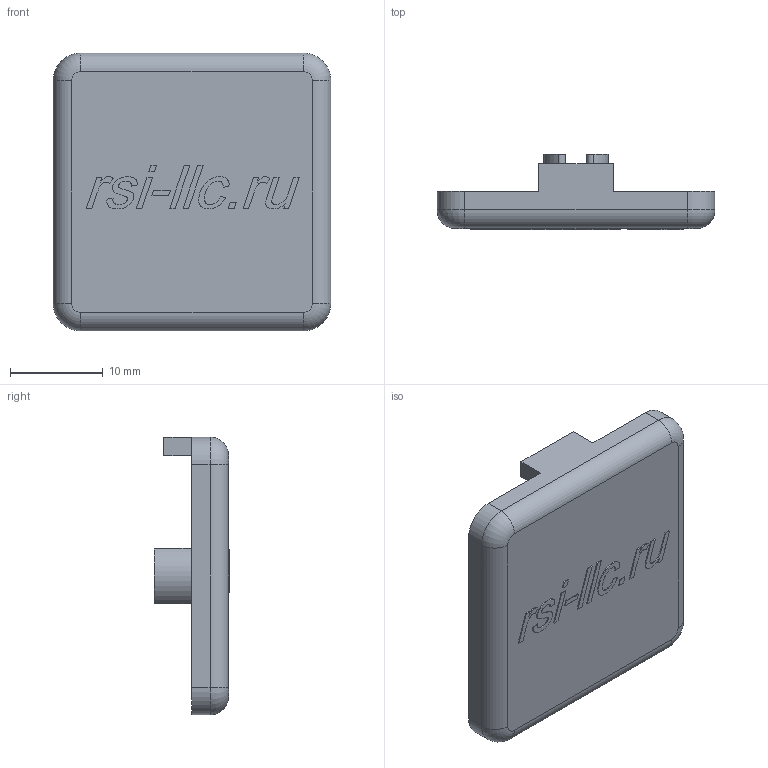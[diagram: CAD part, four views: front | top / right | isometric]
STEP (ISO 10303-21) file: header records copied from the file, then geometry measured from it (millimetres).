
FILE_DESCRIPTION (( 'STEP AP214' ), '1' );
FILE_NAME ('4002.STEP', '2020-10-20T07:44:30', ( '' ), ( '' ), 'SwSTEP 2.0', 'SolidWorks 2018', '' );
FILE_SCHEMA (( 'AUTOMOTIVE_DESIGN' ));
Length unit declared in the file: millimetre
Products named in the file (1): 4002
Bounding box: 30 x 8.1 x 30 mm (x, y, z)
Volume: 2274.5 mm3; surface area: 2564.9 mm2
Topology: 1 solids, 1 shells, 154 faces, 391 edges, 252 vertices
Faces by surface type: plane 78, bspline 32, cylinder 26, torus 18
Entity records: 7415 total; most frequent: CARTESIAN_POINT 2782, ORIENTED_EDGE 782, DIRECTION 653, EDGE_CURVE 391, VERTEX_POINT 252, LINE 247, VECTOR 247, AXIS2_PLACEMENT_3D 203
